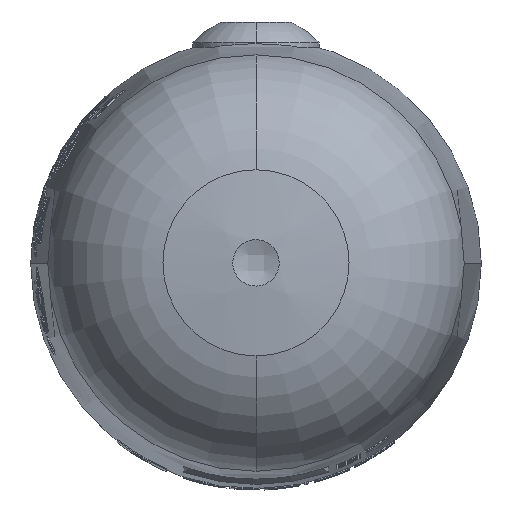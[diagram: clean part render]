
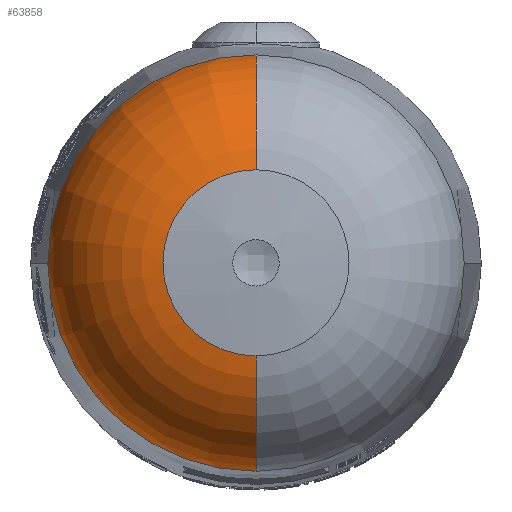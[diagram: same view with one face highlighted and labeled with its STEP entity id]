
A CAD part, top view. The second image highlights one B-rep face of the part: STEP entity #63858.
In plain terms, the highlighted toroidal (fillet/blend) face has major radius 6.121 mm and minor radius 12 mm.
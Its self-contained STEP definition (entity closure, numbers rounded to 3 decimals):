
#502 = AXIS2_PLACEMENT_3D ( 'NONE', #19199, #65638, #48631 ) ;
#1729 = EDGE_CURVE ( 'NONE', #47613, #52399, #4342, .T. ) ;
#2138 = CARTESIAN_POINT ( 'NONE',  ( 8.054, 0., 34.547 ) ) ;
#4342 = CIRCLE ( 'NONE', #34582, 18.019 ) ;
#8926 = CARTESIAN_POINT ( 'NONE',  ( 0., 0., 34.547 ) ) ;
#13843 = CIRCLE ( 'NONE', #502, 12. ) ;
#17350 = DIRECTION ( 'NONE',  ( -1., 0., 0. ) ) ;
#17418 = CARTESIAN_POINT ( 'NONE',  ( -8.054, 0., 34.547 ) ) ;
#17492 = DIRECTION ( 'NONE',  ( 1., 0., 0. ) ) ;
#18393 = VERTEX_POINT ( 'NONE', #17418 ) ;
#19199 = CARTESIAN_POINT ( 'NONE',  ( -6.121, 0., 22.704 ) ) ;
#20608 = AXIS2_PLACEMENT_3D ( 'NONE', #26287, #53453, #31583 ) ;
#21926 = DIRECTION ( 'NONE',  ( -1., 0., 0. ) ) ;
#23378 = EDGE_CURVE ( 'NONE', #52399, #18393, #13843, .T. ) ;
#24687 = CARTESIAN_POINT ( 'NONE',  ( 6.121, 0., 22.704 ) ) ;
#25477 = ORIENTED_EDGE ( 'NONE', *, *, #31099, .T. ) ;
#26047 = CIRCLE ( 'NONE', #47687, 8.054 ) ;
#26287 = CARTESIAN_POINT ( 'NONE',  ( 0., 0., 24.266 ) ) ;
#27461 = VERTEX_POINT ( 'NONE', #2138 ) ;
#28192 = ORIENTED_EDGE ( 'NONE', *, *, #70096, .T. ) ;
#31099 = EDGE_CURVE ( 'NONE', #27461, #18393, #26047, .T. ) ;
#31583 = DIRECTION ( 'NONE',  ( -1., 0., 0. ) ) ;
#32265 = CARTESIAN_POINT ( 'NONE',  ( 18.019, 0., 24.266 ) ) ;
#33417 = CIRCLE ( 'NONE', #58696, 12. ) ;
#33537 = VERTEX_POINT ( 'NONE', #32265 ) ;
#34582 = AXIS2_PLACEMENT_3D ( 'NONE', #50642, #73661, #21926 ) ;
#34801 = ORIENTED_EDGE ( 'NONE', *, *, #1729, .F. ) ;
#36248 = DIRECTION ( 'NONE',  ( 1., 0., 0. ) ) ;
#36322 = CIRCLE ( 'NONE', #20608, 18.019 ) ;
#38234 = FACE_OUTER_BOUND ( 'NONE', #42159, .T. ) ;
#42159 = EDGE_LOOP ( 'NONE', ( #74480, #28192, #25477, #42612, #34801 ) ) ;
#42612 = ORIENTED_EDGE ( 'NONE', *, *, #23378, .F. ) ;
#47613 = VERTEX_POINT ( 'NONE', #54484 ) ;
#47687 = AXIS2_PLACEMENT_3D ( 'NONE', #8926, #72435, #36248 ) ;
#47697 = DIRECTION ( 'NONE',  ( 0., -1., 0. ) ) ;
#48631 = DIRECTION ( 'NONE',  ( 0., 0., 1. ) ) ;
#50642 = CARTESIAN_POINT ( 'NONE',  ( 0., 0., 24.266 ) ) ;
#51864 = CARTESIAN_POINT ( 'NONE',  ( -18.019, 0., 24.266 ) ) ;
#52399 = VERTEX_POINT ( 'NONE', #51864 ) ;
#53089 = TOROIDAL_SURFACE ( 'NONE', #57912, 6.121, 12. ) ;
#53453 = DIRECTION ( 'NONE',  ( 0., 0., -1. ) ) ;
#54484 = CARTESIAN_POINT ( 'NONE',  ( 0., -18.019, 24.266 ) ) ;
#55372 = EDGE_CURVE ( 'NONE', #33537, #47613, #36322, .T. ) ;
#56629 = DIRECTION ( 'NONE',  ( 0., 0., 1. ) ) ;
#57912 = AXIS2_PLACEMENT_3D ( 'NONE', #69873, #56629, #17350 ) ;
#58696 = AXIS2_PLACEMENT_3D ( 'NONE', #24687, #47697, #17492 ) ;
#63858 = ADVANCED_FACE ( 'NONE', ( #38234 ), #53089, .T. ) ;
#65638 = DIRECTION ( 'NONE',  ( 0., 1., 0. ) ) ;
#69873 = CARTESIAN_POINT ( 'NONE',  ( 0., 0., 22.704 ) ) ;
#70096 = EDGE_CURVE ( 'NONE', #33537, #27461, #33417, .T. ) ;
#72435 = DIRECTION ( 'NONE',  ( 0., 0., -1. ) ) ;
#73661 = DIRECTION ( 'NONE',  ( 0., 0., -1. ) ) ;
#74480 = ORIENTED_EDGE ( 'NONE', *, *, #55372, .F. ) ;
